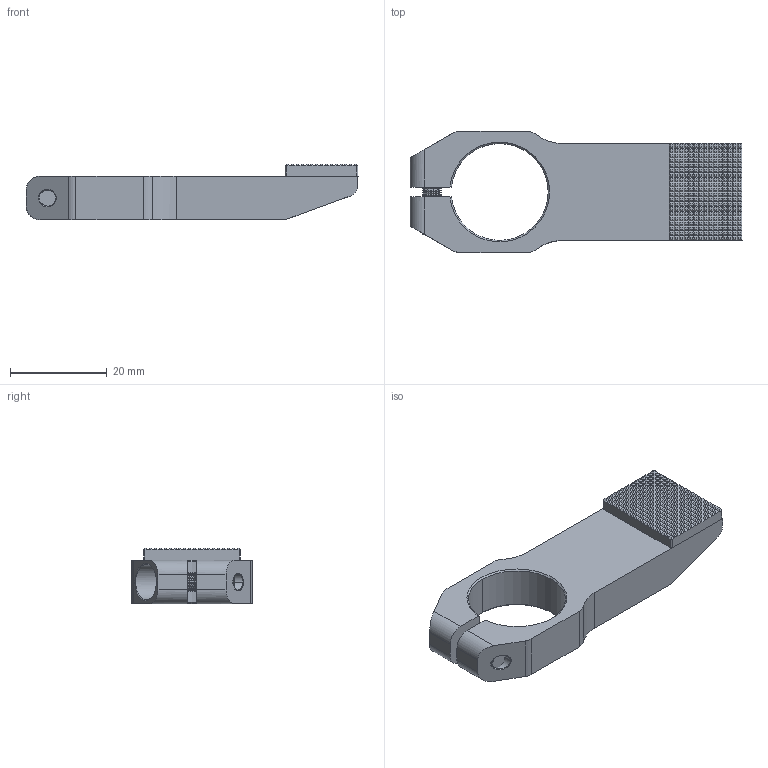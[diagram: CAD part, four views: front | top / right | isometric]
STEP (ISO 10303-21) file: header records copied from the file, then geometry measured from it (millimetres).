
FILE_DESCRIPTION(/* description */ (''),/* implementation_level */ '2;1');
FILE_NAME(/* name */ '_model312.stp',/* time_stamp */ '2023-03-09T13:38:48+08:00',/* author */ (''),/* organization */ (''),/* preprocessor_version */ 'ST-DEVELOPER v16',/* originating_system */ 'SIEMENS PLM Software NX 10.0',/* authorisation */ '');
FILE_SCHEMA (('AUTOMOTIVE_DESIGN { 1 0 10303 214 3 1 1 1 }'));
Products named in the file (1): _model312
Bounding box: 68.5 x 25 x 11.5 mm (x, y, z)
Volume: 8965.1 mm3; surface area: 6242.2 mm2
Topology: 3 solids, 3 shells, 2066 faces, 4424 edges, 2373 vertices
Faces by surface type: plane 1636, cylinder 192, cone 120, torus 78, bspline 40
Entity records: 69497 total; most frequent: CARTESIAN_POINT 11586, DIRECTION 8904, ORIENTED_EDGE 8844, EDGE_CURVE 4422, LINE 3594, VECTOR 3594, AXIS2_PLACEMENT_3D 2655, VERTEX_POINT 2373
